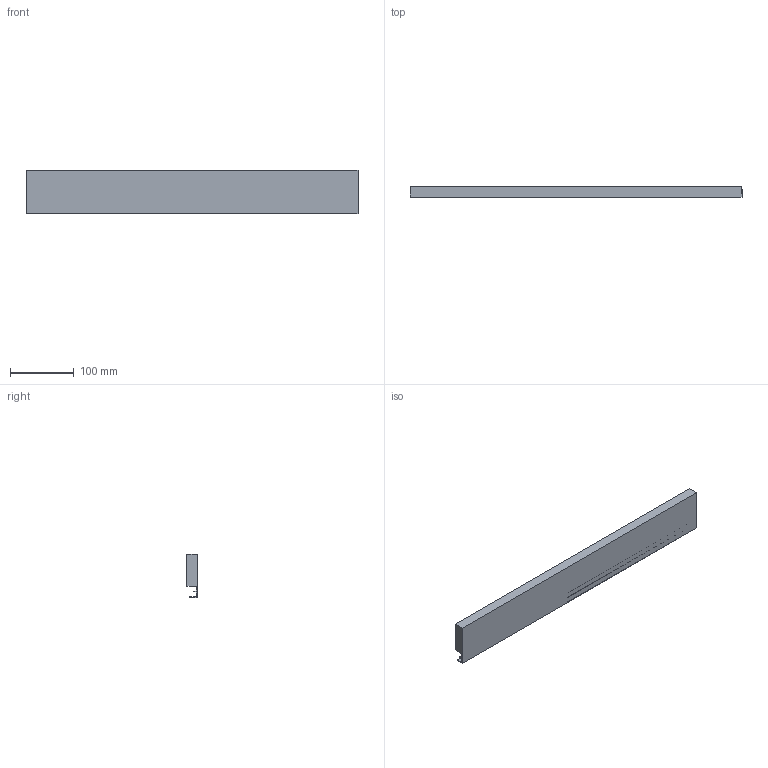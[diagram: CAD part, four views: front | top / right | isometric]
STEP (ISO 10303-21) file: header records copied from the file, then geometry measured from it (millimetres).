
FILE_DESCRIPTION (( 'STEP AP214' ), '1' );
FILE_NAME ('Innenschub-Blendenprofil_KAB650_S19.step', '2010-09-23T12:27:09', ( 'grass' ), ( '' ), 'SwSTEP 2.0', 'SolidWorks 2010', '' );
FILE_SCHEMA (( 'AUTOMOTIVE_DESIGN' ));
Length unit declared in the file: millimetre
Products named in the file (1): Innenschub-Blendenprofil_KAB650_S19
Bounding box: 521 x 15.9 x 67.6 mm (x, y, z)
Volume: 431981.3 mm3; surface area: 103913.2 mm2
Topology: 1 solids, 1 shells, 17 faces, 42 edges, 28 vertices
Faces by surface type: plane 15, cylinder 2
Entity records: 534 total; most frequent: CARTESIAN_POINT 88, ORIENTED_EDGE 84, DIRECTION 82, EDGE_CURVE 42, VECTOR 38, LINE 38, VERTEX_POINT 28, AXIS2_PLACEMENT_3D 22
